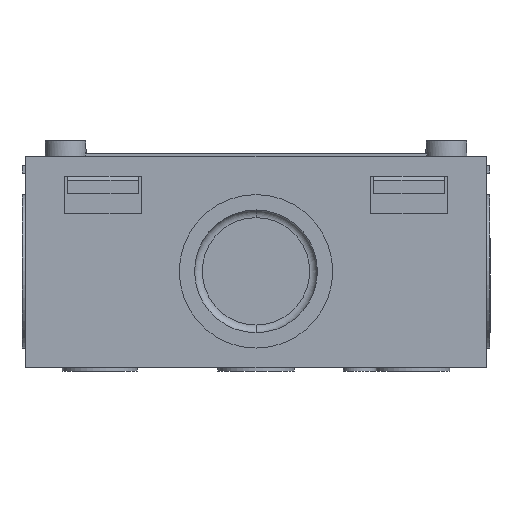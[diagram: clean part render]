
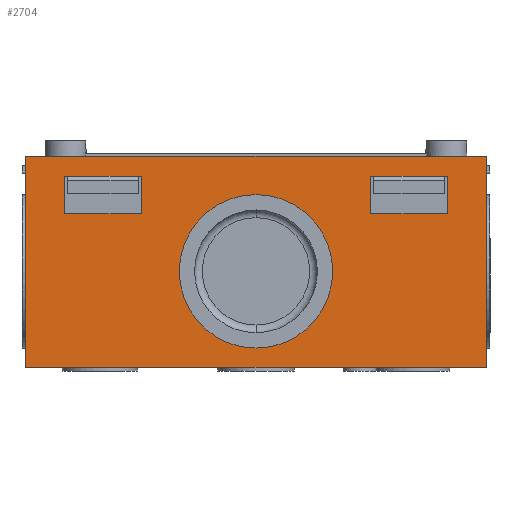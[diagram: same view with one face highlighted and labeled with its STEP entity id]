
A CAD part, front view. The second image highlights one B-rep face of the part: STEP entity #2704.
In plain terms, the highlighted planar face has unit normal (0, -1, 0).
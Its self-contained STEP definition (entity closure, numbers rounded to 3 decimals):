
#88 = AXIS2_PLACEMENT_3D ( 'NONE', #5215, #5216, #5217 ) ;
#90 = FACE_BOUND ( 'NONE', #1693, .T. ) ;
#119 = FACE_OUTER_BOUND ( 'NONE', #1698, .T. ) ;
#122 = FACE_BOUND ( 'NONE', #1690, .T. ) ;
#126 = FACE_BOUND ( 'NONE', #1691, .T. ) ;
#470 = EDGE_CURVE ( 'NONE', #2952, #3008, #2335, .T. ) ;
#993 = EDGE_CURVE ( 'NONE', #2992, #2994, #7668, .T. ) ;
#995 = EDGE_CURVE ( 'NONE', #2981, #2952, #7674, .T. ) ;
#998 = EDGE_CURVE ( 'NONE', #3008, #2991, #7683, .T. ) ;
#1001 = EDGE_CURVE ( 'NONE', #2992, #2993, #7692, .T. ) ;
#1002 = EDGE_CURVE ( 'NONE', #2994, #2995, #7695, .T. ) ;
#1003 = EDGE_CURVE ( 'NONE', #2997, #3000, #7698, .T. ) ;
#1004 = EDGE_CURVE ( 'NONE', #2993, #2995, #7701, .T. ) ;
#1005 = EDGE_CURVE ( 'NONE', #3000, #2996, #7704, .T. ) ;
#1006 = EDGE_CURVE ( 'NONE', #2997, #2998, #7707, .T. ) ;
#1007 = EDGE_CURVE ( 'NONE', #2998, #2996, #7710, .T. ) ;
#1008 = EDGE_CURVE ( 'NONE', #2902, #2898, #8934, .T. ) ;
#1057 = EDGE_CURVE ( 'NONE', #2991, #2981, #7860, .T. ) ;
#1172 = CIRCLE ( 'NONE', #4460, 10. ) ;
#1199 = ORIENTED_EDGE ( 'NONE', *, *, #1003, .F. ) ;
#1200 = ORIENTED_EDGE ( 'NONE', *, *, #1007, .T. ) ;
#1202 = ORIENTED_EDGE ( 'NONE', *, *, #1008, .F. ) ;
#1203 = ORIENTED_EDGE ( 'NONE', *, *, #8978, .F. ) ;
#1690 = EDGE_LOOP ( 'NONE', ( #4008, #1199, #4009, #1200 ) ) ;
#1691 = EDGE_LOOP ( 'NONE', ( #1202, #1203 ) ) ;
#1693 = EDGE_LOOP ( 'NONE', ( #4004, #4006, #4005, #4007 ) ) ;
#1698 = EDGE_LOOP ( 'NONE', ( #3999, #4002, #4001, #4003 ) ) ;
#2335 = LINE ( 'NONE', #2336, #8179 ) ;
#2336 = CARTESIAN_POINT ( 'NONE',  ( -30., -84.3, -13.75 ) ) ;
#2337 = DIRECTION ( 'NONE',  ( 1., 0., 0. ) ) ;
#2401 = CARTESIAN_POINT ( 'NONE',  ( 0., -84.3, -1.25 ) ) ;
#2402 = DIRECTION ( 'NONE',  ( 0., -1., 0. ) ) ;
#2403 = DIRECTION ( 'NONE',  ( 0., 0., 1. ) ) ;
#2704 = ADVANCED_FACE ( 'NONE', ( #119, #90, #122, #126 ), #5214, .F. ) ;
#2898 = VERTEX_POINT ( 'NONE', #5704 ) ;
#2902 = VERTEX_POINT ( 'NONE', #5708 ) ;
#2952 = VERTEX_POINT ( 'NONE', #5756 ) ;
#2981 = VERTEX_POINT ( 'NONE', #5785 ) ;
#2991 = VERTEX_POINT ( 'NONE', #5795 ) ;
#2992 = VERTEX_POINT ( 'NONE', #5796 ) ;
#2993 = VERTEX_POINT ( 'NONE', #5797 ) ;
#2994 = VERTEX_POINT ( 'NONE', #5798 ) ;
#2995 = VERTEX_POINT ( 'NONE', #5799 ) ;
#2996 = VERTEX_POINT ( 'NONE', #5800 ) ;
#2997 = VERTEX_POINT ( 'NONE', #5801 ) ;
#2998 = VERTEX_POINT ( 'NONE', #5802 ) ;
#3000 = VERTEX_POINT ( 'NONE', #5804 ) ;
#3008 = VERTEX_POINT ( 'NONE', #5812 ) ;
#3999 = ORIENTED_EDGE ( 'NONE', *, *, #998, .T. ) ;
#4001 = ORIENTED_EDGE ( 'NONE', *, *, #995, .T. ) ;
#4002 = ORIENTED_EDGE ( 'NONE', *, *, #1057, .T. ) ;
#4003 = ORIENTED_EDGE ( 'NONE', *, *, #470, .T. ) ;
#4004 = ORIENTED_EDGE ( 'NONE', *, *, #1001, .F. ) ;
#4005 = ORIENTED_EDGE ( 'NONE', *, *, #1002, .T. ) ;
#4006 = ORIENTED_EDGE ( 'NONE', *, *, #993, .T. ) ;
#4007 = ORIENTED_EDGE ( 'NONE', *, *, #1004, .F. ) ;
#4008 = ORIENTED_EDGE ( 'NONE', *, *, #1005, .F. ) ;
#4009 = ORIENTED_EDGE ( 'NONE', *, *, #1006, .T. ) ;
#4460 = AXIS2_PLACEMENT_3D ( 'NONE', #2401, #2402, #2403 ) ;
#5214 = PLANE ( 'NONE',  #88 ) ;
#5215 = CARTESIAN_POINT ( 'NONE',  ( 0., -84.3, 0. ) ) ;
#5216 = DIRECTION ( 'NONE',  ( 0., 1., 0. ) ) ;
#5217 = DIRECTION ( 'NONE',  ( 0., 0., 1. ) ) ;
#5704 = CARTESIAN_POINT ( 'NONE',  ( 0., -84.3, -11.25 ) ) ;
#5708 = CARTESIAN_POINT ( 'NONE',  ( 0., -84.3, 8.75 ) ) ;
#5756 = CARTESIAN_POINT ( 'NONE',  ( -30., -84.3, -13.75 ) ) ;
#5785 = CARTESIAN_POINT ( 'NONE',  ( -30., -84.3, 13.75 ) ) ;
#5795 = CARTESIAN_POINT ( 'NONE',  ( 30., -84.3, 13.75 ) ) ;
#5796 = CARTESIAN_POINT ( 'NONE',  ( 24.95, -84.3, 11.15 ) ) ;
#5797 = CARTESIAN_POINT ( 'NONE',  ( 14.95, -84.3, 11.15 ) ) ;
#5798 = CARTESIAN_POINT ( 'NONE',  ( 24.95, -84.3, 6.25 ) ) ;
#5799 = CARTESIAN_POINT ( 'NONE',  ( 14.95, -84.3, 6.25 ) ) ;
#5800 = CARTESIAN_POINT ( 'NONE',  ( -14.95, -84.3, 6.25 ) ) ;
#5801 = CARTESIAN_POINT ( 'NONE',  ( -24.95, -84.3, 11.15 ) ) ;
#5802 = CARTESIAN_POINT ( 'NONE',  ( -14.95, -84.3, 11.15 ) ) ;
#5804 = CARTESIAN_POINT ( 'NONE',  ( -24.95, -84.3, 6.25 ) ) ;
#5812 = CARTESIAN_POINT ( 'NONE',  ( 30., -84.3, -13.75 ) ) ;
#7661 = CARTESIAN_POINT ( 'NONE',  ( 0., -84.3, -1.25 ) ) ;
#7668 = LINE ( 'NONE', #7669, #8404 ) ;
#7669 = CARTESIAN_POINT ( 'NONE',  ( 24.95, -84.3, 11.15 ) ) ;
#7670 = DIRECTION ( 'NONE',  ( 0., 0., -1. ) ) ;
#7674 = LINE ( 'NONE', #7675, #8514 ) ;
#7675 = CARTESIAN_POINT ( 'NONE',  ( -30., -84.3, -13.75 ) ) ;
#7676 = DIRECTION ( 'NONE',  ( 0., 0., -1. ) ) ;
#7683 = LINE ( 'NONE', #7684, #8721 ) ;
#7684 = CARTESIAN_POINT ( 'NONE',  ( 30., -84.3, -13.75 ) ) ;
#7685 = DIRECTION ( 'NONE',  ( 0., 0., 1. ) ) ;
#7692 = LINE ( 'NONE', #7693, #8513 ) ;
#7693 = CARTESIAN_POINT ( 'NONE',  ( 24.95, -84.3, 11.15 ) ) ;
#7694 = DIRECTION ( 'NONE',  ( -1., 0., 0. ) ) ;
#7695 = LINE ( 'NONE', #7696, #8699 ) ;
#7696 = CARTESIAN_POINT ( 'NONE',  ( 24.95, -84.3, 6.25 ) ) ;
#7697 = DIRECTION ( 'NONE',  ( -1., 0., 0. ) ) ;
#7698 = LINE ( 'NONE', #7699, #8511 ) ;
#7699 = CARTESIAN_POINT ( 'NONE',  ( -24.95, -84.3, 11.15 ) ) ;
#7700 = DIRECTION ( 'NONE',  ( 0., 0., -1. ) ) ;
#7701 = LINE ( 'NONE', #7702, #8529 ) ;
#7702 = CARTESIAN_POINT ( 'NONE',  ( 14.95, -84.3, 11.15 ) ) ;
#7703 = DIRECTION ( 'NONE',  ( 0., 0., -1. ) ) ;
#7704 = LINE ( 'NONE', #7705, #8510 ) ;
#7705 = CARTESIAN_POINT ( 'NONE',  ( -24.95, -84.3, 6.25 ) ) ;
#7706 = DIRECTION ( 'NONE',  ( 1., 0., 0. ) ) ;
#7707 = LINE ( 'NONE', #7708, #8509 ) ;
#7708 = CARTESIAN_POINT ( 'NONE',  ( -24.95, -84.3, 11.15 ) ) ;
#7709 = DIRECTION ( 'NONE',  ( 1., 0., 0. ) ) ;
#7710 = LINE ( 'NONE', #7711, #8678 ) ;
#7711 = CARTESIAN_POINT ( 'NONE',  ( -14.95, -84.3, 11.15 ) ) ;
#7712 = DIRECTION ( 'NONE',  ( 0., 0., -1. ) ) ;
#7713 = DIRECTION ( 'NONE',  ( 0., -1., 0. ) ) ;
#7714 = DIRECTION ( 'NONE',  ( 0., 0., 1. ) ) ;
#7860 = LINE ( 'NONE', #7861, #8854 ) ;
#7861 = CARTESIAN_POINT ( 'NONE',  ( -30., -84.3, 13.75 ) ) ;
#7862 = DIRECTION ( 'NONE',  ( -1., 0., 0. ) ) ;
#8179 = VECTOR ( 'NONE', #2337, 1000. ) ;
#8404 = VECTOR ( 'NONE', #7670, 1000. ) ;
#8509 = VECTOR ( 'NONE', #7709, 1000. ) ;
#8510 = VECTOR ( 'NONE', #7706, 1000. ) ;
#8511 = VECTOR ( 'NONE', #7700, 1000. ) ;
#8513 = VECTOR ( 'NONE', #7694, 1000. ) ;
#8514 = VECTOR ( 'NONE', #7676, 1000. ) ;
#8529 = VECTOR ( 'NONE', #7703, 1000. ) ;
#8530 = AXIS2_PLACEMENT_3D ( 'NONE', #7661, #7713, #7714 ) ;
#8678 = VECTOR ( 'NONE', #7712, 1000. ) ;
#8699 = VECTOR ( 'NONE', #7697, 1000. ) ;
#8721 = VECTOR ( 'NONE', #7685, 1000. ) ;
#8854 = VECTOR ( 'NONE', #7862, 1000. ) ;
#8934 = CIRCLE ( 'NONE', #8530, 10. ) ;
#8978 = EDGE_CURVE ( 'NONE', #2898, #2902, #1172, .T. ) ;
